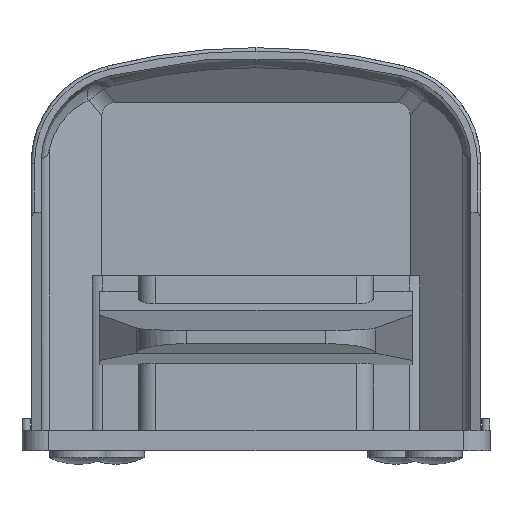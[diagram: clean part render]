
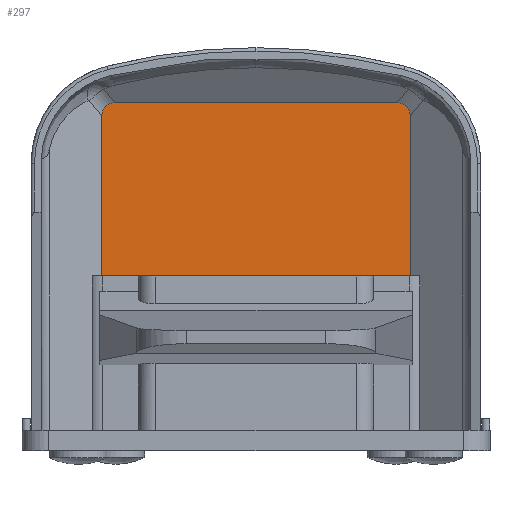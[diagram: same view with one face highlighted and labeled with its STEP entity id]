
A CAD part, front view. The second image highlights one B-rep face of the part: STEP entity #297.
In plain terms, the highlighted planar face has unit normal (0, -1, 0) as drawn and (1, 0, 0) by its records, which use the part's own axes.
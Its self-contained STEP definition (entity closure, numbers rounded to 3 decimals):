
#189 = VERTEX_POINT ( 'NONE', #6781 ) ;
#191 = EDGE_CURVE ( 'NONE', #189, #192, #6780, .T. ) ;
#192 = VERTEX_POINT ( 'NONE', #6776 ) ;
#279 = EDGE_CURVE ( 'NONE', #360, #280, #6961, .T. ) ;
#280 = VERTEX_POINT ( 'NONE', #6960 ) ;
#281 = ORIENTED_EDGE ( 'NONE', *, *, #282, .T. ) ;
#282 = EDGE_CURVE ( 'NONE', #280, #283, #6441, .T. ) ;
#283 = VERTEX_POINT ( 'NONE', #6999 ) ;
#284 = ORIENTED_EDGE ( 'NONE', *, *, #285, .F. ) ;
#285 = EDGE_CURVE ( 'NONE', #286, #283, #6998, .T. ) ;
#286 = VERTEX_POINT ( 'NONE', #6997 ) ;
#287 = ORIENTED_EDGE ( 'NONE', *, *, #288, .T. ) ;
#288 = EDGE_CURVE ( 'NONE', #286, #192, #6992, .T. ) ;
#297 = ADVANCED_FACE ( 'NONE', ( #7026 ), #7025, .T. ) ;
#298 = EDGE_LOOP ( 'NONE', ( #299, #358, #361, #281, #284, #287 ) ) ;
#299 = ORIENTED_EDGE ( 'NONE', *, *, #191, .F. ) ;
#358 = ORIENTED_EDGE ( 'NONE', *, *, #359, .F. ) ;
#359 = EDGE_CURVE ( 'NONE', #360, #189, #7140, .T. ) ;
#360 = VERTEX_POINT ( 'NONE', #7136 ) ;
#361 = ORIENTED_EDGE ( 'NONE', *, *, #279, .T. ) ;
#6440 = CARTESIAN_POINT ( 'NONE',  ( 45., 48.8, 51.572 ) ) ;
#6441 = LINE ( 'NONE', #6440, #6718 ) ;
#6706 = DIRECTION ( 'NONE',  ( 0., -1., 0. ) ) ;
#6718 = VECTOR ( 'NONE', #6706, 1000. ) ;
#6776 = CARTESIAN_POINT ( 'NONE',  ( 45., -45.996, 0. ) ) ;
#6777 = DIRECTION ( 'NONE',  ( 0., -1., 0. ) ) ;
#6778 = VECTOR ( 'NONE', #6777, 1000. ) ;
#6779 = CARTESIAN_POINT ( 'NONE',  ( 45., 48.8, 0. ) ) ;
#6780 = LINE ( 'NONE', #6779, #6778 ) ;
#6781 = CARTESIAN_POINT ( 'NONE',  ( 45., 45.996, 0. ) ) ;
#6956 = CARTESIAN_POINT ( 'NONE',  ( 45., 41.969, 51.572 ) ) ;
#6957 = CARTESIAN_POINT ( 'NONE',  ( 45., 44.303, 51.572 ) ) ;
#6958 = CARTESIAN_POINT ( 'NONE',  ( 45., 45.72, 50.264 ) ) ;
#6959 = CARTESIAN_POINT ( 'NONE',  ( 45., 45.996, 47.854 ) ) ;
#6960 = CARTESIAN_POINT ( 'NONE',  ( 45., 41.969, 51.572 ) ) ;
#6961 =( BOUNDED_CURVE ( )  B_SPLINE_CURVE ( 3, ( #6959, #6958, #6957, #6956 ),
 .UNSPECIFIED., .F., .T. ) 
 B_SPLINE_CURVE_WITH_KNOTS ( ( 4, 4 ),
 ( 2.718, 3.518 ),
 .UNSPECIFIED. ) 
 CURVE ( )  GEOMETRIC_REPRESENTATION_ITEM ( )  RATIONAL_B_SPLINE_CURVE ( ( 1., 0.947, 0.947, 1. ) ) 
 REPRESENTATION_ITEM ( '' )  );
#6989 = DIRECTION ( 'NONE',  ( 0., 0., -1. ) ) ;
#6990 = VECTOR ( 'NONE', #6989, 1000. ) ;
#6991 = CARTESIAN_POINT ( 'NONE',  ( 45., -45.996, 500000. ) ) ;
#6992 = LINE ( 'NONE', #6991, #6990 ) ;
#6993 = CARTESIAN_POINT ( 'NONE',  ( 45., -41.969, 51.572 ) ) ;
#6994 = CARTESIAN_POINT ( 'NONE',  ( 45., -44.303, 51.572 ) ) ;
#6995 = CARTESIAN_POINT ( 'NONE',  ( 45., -45.72, 50.264 ) ) ;
#6996 = CARTESIAN_POINT ( 'NONE',  ( 45., -45.996, 47.854 ) ) ;
#6997 = CARTESIAN_POINT ( 'NONE',  ( 45., -45.996, 47.854 ) ) ;
#6998 =( BOUNDED_CURVE ( )  B_SPLINE_CURVE ( 3, ( #6996, #6995, #6994, #6993 ),
 .UNSPECIFIED., .F., .F. ) 
 B_SPLINE_CURVE_WITH_KNOTS ( ( 4, 4 ),
 ( 2.718, 3.518 ),
 .UNSPECIFIED. ) 
 CURVE ( )  GEOMETRIC_REPRESENTATION_ITEM ( )  RATIONAL_B_SPLINE_CURVE ( ( 1., 0.947, 0.947, 1. ) ) 
 REPRESENTATION_ITEM ( '' )  );
#6999 = CARTESIAN_POINT ( 'NONE',  ( 45., -41.969, 51.572 ) ) ;
#7021 = DIRECTION ( 'NONE',  ( 0., 1., 0. ) ) ;
#7022 = DIRECTION ( 'NONE',  ( 1., 0., 0. ) ) ;
#7023 = CARTESIAN_POINT ( 'NONE',  ( 45., 48.8, 73.941 ) ) ;
#7024 = AXIS2_PLACEMENT_3D ( 'NONE', #7023, #7022, #7021 ) ;
#7025 = PLANE ( 'NONE',  #7024 ) ;
#7026 = FACE_OUTER_BOUND ( 'NONE', #298, .T. ) ;
#7136 = CARTESIAN_POINT ( 'NONE',  ( 45., 45.996, 47.854 ) ) ;
#7137 = DIRECTION ( 'NONE',  ( 0., 0., -1. ) ) ;
#7138 = VECTOR ( 'NONE', #7137, 1000. ) ;
#7139 = CARTESIAN_POINT ( 'NONE',  ( 45., 45.996, 500000. ) ) ;
#7140 = LINE ( 'NONE', #7139, #7138 ) ;
